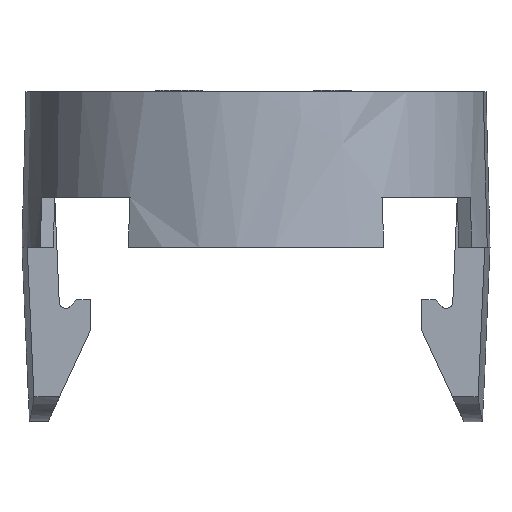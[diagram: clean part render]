
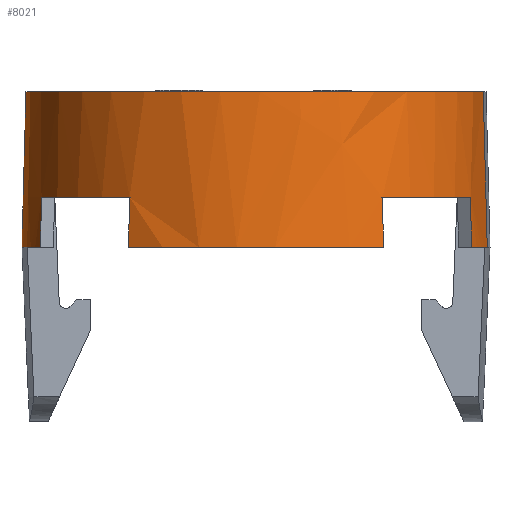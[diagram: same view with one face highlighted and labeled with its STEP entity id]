
A CAD part, front view. The second image highlights one B-rep face of the part: STEP entity #8021.
In plain terms, the highlighted free-form (B-spline) face has degree [1, 2] with [2, 5] control points.
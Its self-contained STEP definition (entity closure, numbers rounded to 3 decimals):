
#1701=CARTESIAN_POINT(' ',(-18.245,2.89,12.5));
#1702=VERTEX_POINT(' ',#1701);
#1706=CARTESIAN_POINT(' ',(18.245,-2.89,12.5));
#1707=VERTEX_POINT(' ',#1706);
#1721=CARTESIAN_POINT(' ',(0.,0.,12.5));
#1726=DIRECTION(' ',(0.,0.,-1.));
#1731=DIRECTION(' ',(0.988,-0.156,0.));
#1736=AXIS2_PLACEMENT_3D(' ',#1721,#1726,#1731);
#1741=CIRCLE('',#1736,18.473);
#1746=EDGE_CURVE(' ',#1707,#1702,#1741,.T.);
#7046=CARTESIAN_POINT(' ',(-18.569,2.941,0.));
#7047=VERTEX_POINT(' ',#7046);
#7066=CARTESIAN_POINT(' ',(-18.245,2.89,12.5));
#7071=DIRECTION(' ',(-0.026,0.004,-1.));
#7076=VECTOR(' ',#7071,1.);
#7081=LINE('',#7066,#7076);
#7086=EDGE_CURVE(' ',#1702,#7047,#7081,.T.);
#7101=CARTESIAN_POINT(' ',(18.569,-2.941,0.));
#7106=DIRECTION(' ',(-0.026,0.004,1.));
#7111=VECTOR(' ',#7106,1.);
#7116=LINE('',#7101,#7111);
#7121=CARTESIAN_POINT(' ',(18.569,-2.941,0.));
#7122=VERTEX_POINT(' ',#7121);
#7126=EDGE_CURVE(' ',#7122,#1707,#7116,.T.);
#7526=CARTESIAN_POINT(' ',(18.569,-2.941,0.));
#7531=CARTESIAN_POINT(' ',(15.628,-21.51,0.));
#7536=CARTESIAN_POINT(' ',(-2.941,-18.569,0.));
#7541=CARTESIAN_POINT(' ',(-21.51,-15.628,0.));
#7546=CARTESIAN_POINT(' ',(-18.569,2.941,0.));
#7551=CARTESIAN_POINT(' ',(18.245,-2.89,12.5));
#7556=CARTESIAN_POINT(' ',(15.355,-21.135,12.5));
#7561=CARTESIAN_POINT(' ',(-2.89,-18.245,12.5));
#7566=CARTESIAN_POINT(' ',(-21.135,-15.355,12.5));
#7571=CARTESIAN_POINT(' ',(-18.245,2.89,12.5));
#7576=(BOUNDED_SURFACE()B_SPLINE_SURFACE(1,2,((#7526,#7531,#7536,#7541,#7546),(#7551,#7556,#7561,#7566,#7571)),.UNSPECIFIED.,.F.,.F.,.U.)B_SPLINE_SURFACE_WITH_KNOTS((2,2),(3,2,3),(0.,1.),(0.,0.5,1.),.UNSPECIFIED.)GEOMETRIC_REPRESENTATION_ITEM()RATIONAL_B_SPLINE_SURFACE(((1.,0.707,1.,0.707,1.),(1.,0.707,1.,0.707,1.)))REPRESENTATION_ITEM(' ')SURFACE());
#7581=CARTESIAN_POINT(' ',(0.,0.,0.));
#7586=DIRECTION(' ',(0.,0.,-1.));
#7591=DIRECTION(' ',(-0.977,-0.213,0.));
#7596=AXIS2_PLACEMENT_3D(' ',#7581,#7586,#7591);
#7601=CIRCLE('',#7596,18.8);
#7606=CARTESIAN_POINT(' ',(-18.37,-4.,0.));
#7607=VERTEX_POINT(' ',#7606);
#7611=EDGE_CURVE(' ',#7607,#7047,#7601,.T.);
#7616=ORIENTED_EDGE(' ',*,*,#7611,.F.);
#7621=CARTESIAN_POINT(' ',(0.,0.,0.));
#7626=DIRECTION(' ',(0.,0.,1.));
#7631=DIRECTION(' ',(-0.977,-0.213,0.));
#7636=AXIS2_PLACEMENT_3D(' ',#7621,#7626,#7631);
#7641=CIRCLE('',#7636,18.8);
#7646=CARTESIAN_POINT(' ',(-17.307,-7.342,0.));
#7647=VERTEX_POINT(' ',#7646);
#7651=EDGE_CURVE(' ',#7607,#7647,#7641,.T.);
#7656=ORIENTED_EDGE(' ',*,*,#7651,.T.);
#7661=CARTESIAN_POINT(' ',(-17.307,-7.342,0.));
#7666=DIRECTION(' ',(0.021,0.018,1.));
#7671=VECTOR(' ',#7666,1.);
#7676=LINE('',#7661,#7671);
#7681=CARTESIAN_POINT(' ',(-17.223,-7.272,4.));
#7682=VERTEX_POINT(' ',#7681);
#7686=EDGE_CURVE(' ',#7647,#7682,#7676,.T.);
#7691=ORIENTED_EDGE(' ',*,*,#7686,.T.);
#7696=CARTESIAN_POINT(' ',(0.,0.,4.));
#7701=DIRECTION(' ',(0.,0.,1.));
#7706=DIRECTION(' ',(-0.921,-0.389,0.));
#7711=AXIS2_PLACEMENT_3D(' ',#7696,#7701,#7706);
#7716=CIRCLE('',#7711,18.695);
#7721=CARTESIAN_POINT(' ',(-10.152,-15.699,4.));
#7722=VERTEX_POINT(' ',#7721);
#7726=EDGE_CURVE(' ',#7682,#7722,#7716,.T.);
#7731=ORIENTED_EDGE(' ',*,*,#7726,.T.);
#7736=CARTESIAN_POINT(' ',(-10.152,-15.699,4.));
#7741=DIRECTION(' ',(-0.021,-0.018,-1.));
#7746=VECTOR(' ',#7741,1.);
#7751=LINE('',#7736,#7746);
#7756=CARTESIAN_POINT(' ',(-10.236,-15.769,0.));
#7757=VERTEX_POINT(' ',#7756);
#7761=EDGE_CURVE(' ',#7722,#7757,#7751,.T.);
#7766=ORIENTED_EDGE(' ',*,*,#7761,.T.);
#7771=CARTESIAN_POINT(' ',(0.,0.,0.));
#7776=DIRECTION(' ',(0.,0.,1.));
#7781=DIRECTION(' ',(-0.544,-0.839,0.));
#7786=AXIS2_PLACEMENT_3D(' ',#7771,#7776,#7781);
#7791=CIRCLE('',#7786,18.8);
#7796=CARTESIAN_POINT(' ',(10.236,-15.769,0.));
#7797=VERTEX_POINT(' ',#7796);
#7801=EDGE_CURVE(' ',#7757,#7797,#7791,.T.);
#7806=ORIENTED_EDGE(' ',*,*,#7801,.T.);
#7811=CARTESIAN_POINT(' ',(10.236,-15.769,0.));
#7816=DIRECTION(' ',(-0.021,0.018,1.));
#7821=VECTOR(' ',#7816,1.);
#7826=LINE('',#7811,#7821);
#7831=CARTESIAN_POINT(' ',(10.152,-15.699,4.));
#7832=VERTEX_POINT(' ',#7831);
#7836=EDGE_CURVE(' ',#7797,#7832,#7826,.T.);
#7841=ORIENTED_EDGE(' ',*,*,#7836,.T.);
#7846=CARTESIAN_POINT(' ',(0.,0.,4.));
#7851=DIRECTION(' ',(0.,0.,1.));
#7856=DIRECTION(' ',(0.543,-0.84,0.));
#7861=AXIS2_PLACEMENT_3D(' ',#7846,#7851,#7856);
#7866=CIRCLE('',#7861,18.695);
#7871=CARTESIAN_POINT(' ',(17.223,-7.272,4.));
#7872=VERTEX_POINT(' ',#7871);
#7876=EDGE_CURVE(' ',#7832,#7872,#7866,.T.);
#7881=ORIENTED_EDGE(' ',*,*,#7876,.T.);
#7886=CARTESIAN_POINT(' ',(17.223,-7.272,4.));
#7891=DIRECTION(' ',(0.021,-0.018,-1.));
#7896=VECTOR(' ',#7891,1.);
#7901=LINE('',#7886,#7896);
#7906=CARTESIAN_POINT(' ',(17.307,-7.342,0.));
#7907=VERTEX_POINT(' ',#7906);
#7911=EDGE_CURVE(' ',#7872,#7907,#7901,.T.);
#7916=ORIENTED_EDGE(' ',*,*,#7911,.T.);
#7921=CARTESIAN_POINT(' ',(0.,0.,0.));
#7926=DIRECTION(' ',(0.,0.,1.));
#7931=DIRECTION(' ',(0.921,-0.391,0.));
#7936=AXIS2_PLACEMENT_3D(' ',#7921,#7926,#7931);
#7941=CIRCLE('',#7936,18.8);
#7946=CARTESIAN_POINT(' ',(18.37,-4.,0.));
#7947=VERTEX_POINT(' ',#7946);
#7951=EDGE_CURVE(' ',#7907,#7947,#7941,.T.);
#7956=ORIENTED_EDGE(' ',*,*,#7951,.T.);
#7961=CARTESIAN_POINT(' ',(0.,0.,0.));
#7966=DIRECTION(' ',(0.,0.,-1.));
#7971=DIRECTION(' ',(0.988,-0.156,0.));
#7976=AXIS2_PLACEMENT_3D(' ',#7961,#7966,#7971);
#7981=CIRCLE('',#7976,18.8);
#7986=EDGE_CURVE(' ',#7122,#7947,#7981,.T.);
#7991=ORIENTED_EDGE(' ',*,*,#7986,.F.);
#7996=ORIENTED_EDGE(' ',*,*,#7126,.T.);
#8001=ORIENTED_EDGE(' ',*,*,#1746,.T.);
#8006=ORIENTED_EDGE(' ',*,*,#7086,.T.);
#8011=EDGE_LOOP(' ',(#7616,#7656,#7691,#7731,#7766,#7806,#7841,#7881,#7916,#7956,#7991,#7996,#8001,#8006));
#8016=FACE_OUTER_BOUND(' ',#8011,.T.);
#8021=ADVANCED_FACE(' ',(#8016),#7576,.T.);
